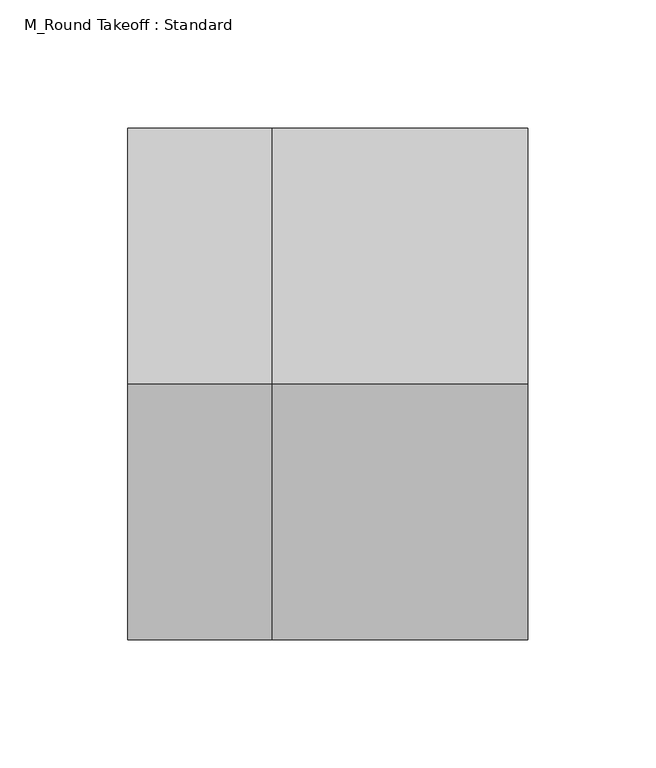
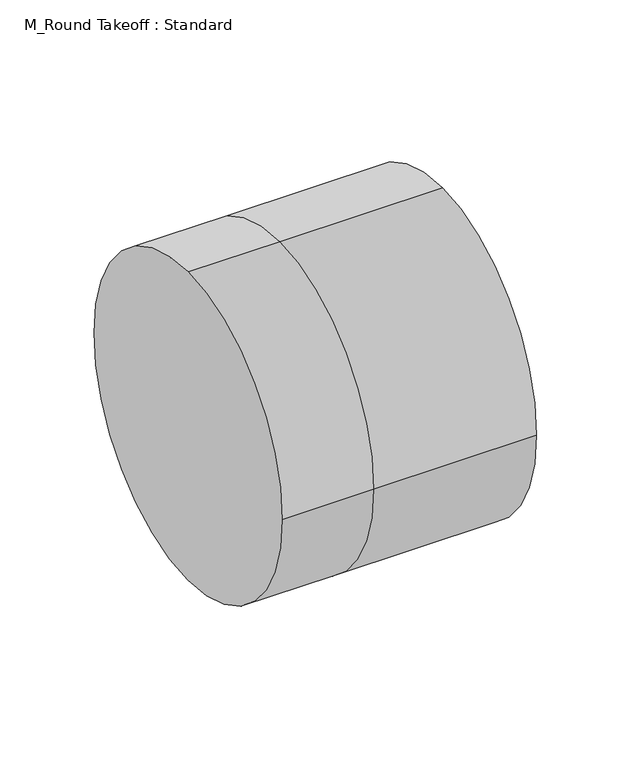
"""IFC4 building model written with IfcOpenShell, lengths in millimetres: duct fitting geometry, M_Round Takeoff : Standard."""

from ifc_helpers import new_model, si_unit, frame, origin, place, context, project, spatial, circle_curve, source, transform, mapped, element, save
from ifc_brep_helpers import plane_surface, cylinder_surface, advanced_brep


def m_round_takeoff_standard_4e9a6aa0(model_context):
    return source(origin(), model_context, "Body", "AdvancedBrep", [
        advanced_brep(
        [(-56.096, 0.0, 100.0), (-56.096, 100.0, 0.0), (-56.096, 0.0, -100.0), (-56.096, -100.0, 0.0), (0.0, 0.0, 100.0), (0.0, 100.0, 0.0), (0.0, 0.0, -100.0), (0.0, -100.0, 0.0), (100.0, 0.0, 100.0), (100.0, -100.0, 0.0), (100.0, 0.0, -100.0), (100.0, 100.0, 0.0)],
        [
            (0, 1, circle_curve(frame((-56.096, 0.0, 0.0), z_axis=(-1.0, 0.0, 0.0), x_axis=(0.0, 1.0, 0.0)), 100.0)),
            (1, 2, circle_curve(frame((-56.096, 0.0, 0.0), z_axis=(-1.0, 0.0, 0.0), x_axis=(0.0, 1.0, 0.0)), 100.0)),
            (2, 3, circle_curve(frame((-56.096, 0.0, 0.0), z_axis=(-1.0, 0.0, 0.0), x_axis=(0.0, 1.0, 0.0)), 100.0)),
            (3, 0, circle_curve(frame((-56.096, 0.0, 0.0), z_axis=(-1.0, 0.0, 0.0), x_axis=(0.0, 1.0, 0.0)), 100.0)),
            (0, 4),
            (4, 5, circle_curve(frame((0.0, 0.0, 0.0), z_axis=(-1.0, 0.0, 0.0), x_axis=(0.0, 1.0, 0.0)), 100.0)),
            (5, 1),
            (5, 6, circle_curve(frame((0.0, 0.0, 0.0), z_axis=(-1.0, 0.0, 0.0), x_axis=(0.0, 1.0, 0.0)), 100.0)),
            (6, 2),
            (6, 7, circle_curve(frame((0.0, 0.0, 0.0), z_axis=(-1.0, 0.0, 0.0), x_axis=(0.0, 1.0, 0.0)), 100.0)),
            (7, 3),
            (7, 4, circle_curve(frame((0.0, 0.0, 0.0), z_axis=(-1.0, 0.0, 0.0), x_axis=(0.0, 1.0, 0.0)), 100.0)),
            (8, 9, circle_curve(frame((100.0, 0.0, 0.0), z_axis=(1.0, 0.0, 0.0), x_axis=(0.0, 1.0, 0.0)), 100.0)),
            (9, 10, circle_curve(frame((100.0, 0.0, 0.0), z_axis=(1.0, 0.0, 0.0), x_axis=(0.0, 1.0, 0.0)), 100.0)),
            (10, 11, circle_curve(frame((100.0, 0.0, 0.0), z_axis=(1.0, 0.0, 0.0), x_axis=(0.0, 1.0, 0.0)), 100.0)),
            (11, 8, circle_curve(frame((100.0, 0.0, 0.0), z_axis=(1.0, 0.0, 0.0), x_axis=(0.0, 1.0, 0.0)), 100.0)),
            (11, 5),
            (4, 8),
            (10, 6),
            (9, 7),
        ],
        [
            plane_surface(frame((-56.096, 0.0, 0.0), z_axis=(-1.0, 0.0, 0.0), x_axis=(0.0, 0.0, 1.0))),
            cylinder_surface(frame((-56.096, 0.0, 0.0), z_axis=(-1.0, 0.0, 0.0), x_axis=(0.0, 1.0, 0.0)), 100.0),
            plane_surface(frame((100.0, 0.0, 0.0), z_axis=(1.0, 0.0, 0.0), x_axis=(0.0, 0.0, 1.0))),
            cylinder_surface(frame((0.0, 0.0, 0.0), z_axis=(-1.0, 0.0, 0.0), x_axis=(0.0, 1.0, 0.0)), 100.0),
        ],
        [
            (0, [[1, 2, 3, 4]]),
            (1, [[-1, 5, 6, 7]]),
            (1, [[-2, -7, 8, 9]]),
            (1, [[-3, -9, 10, 11]]),
            (1, [[-4, -11, 12, -5]]),
            (2, [[13, 14, 15, 16]]),
            (3, [[-16, 17, -6, 18]]),
            (3, [[-15, 19, -8, -17]]),
            (3, [[-14, 20, -10, -19]]),
            (3, [[-13, -18, -12, -20]]),
        ],
    ),
        advanced_brep(
        [(100.0, 0.0, 100.0), (100.0, -100.0, 0.0), (100.0, 0.0, -100.0), (100.0, 100.0, 0.0), (0.0, 100.0, 0.0), (0.0, 0.0, 100.0), (0.0, 0.0, -100.0), (0.0, -100.0, 0.0), (-56.096, 0.0, 100.0), (-56.096, 100.0, 0.0), (-56.096, 0.0, -100.0), (-56.096, -100.0, 0.0)],
        [
            (0, 1, circle_curve(frame((100.0, 0.0, 0.0), z_axis=(1.0, 0.0, 0.0), x_axis=(0.0, 1.0, 0.0)), 100.0)),
            (1, 2, circle_curve(frame((100.0, 0.0, 0.0), z_axis=(1.0, 0.0, 0.0), x_axis=(0.0, 1.0, 0.0)), 100.0)),
            (2, 3, circle_curve(frame((100.0, 0.0, 0.0), z_axis=(1.0, 0.0, 0.0), x_axis=(0.0, 1.0, 0.0)), 100.0)),
            (3, 0, circle_curve(frame((100.0, 0.0, 0.0), z_axis=(1.0, 0.0, 0.0), x_axis=(0.0, 1.0, 0.0)), 100.0)),
            (3, 4),
            (4, 5, circle_curve(frame((0.0, 0.0, 0.0), z_axis=(1.0, 0.0, 0.0), x_axis=(0.0, 1.0, 0.0)), 100.0)),
            (5, 0),
            (2, 6),
            (6, 4, circle_curve(frame((0.0, 0.0, 0.0), z_axis=(1.0, 0.0, 0.0), x_axis=(0.0, 1.0, 0.0)), 100.0)),
            (1, 7),
            (7, 6, circle_curve(frame((0.0, 0.0, 0.0), z_axis=(1.0, 0.0, 0.0), x_axis=(0.0, 1.0, 0.0)), 100.0)),
            (5, 7, circle_curve(frame((0.0, 0.0, 0.0), z_axis=(1.0, 0.0, 0.0), x_axis=(0.0, 1.0, 0.0)), 100.0)),
            (8, 9, circle_curve(frame((-56.096, 0.0, 0.0), z_axis=(-1.0, 0.0, 0.0), x_axis=(0.0, 1.0, 0.0)), 100.0)),
            (9, 10, circle_curve(frame((-56.096, 0.0, 0.0), z_axis=(-1.0, 0.0, 0.0), x_axis=(0.0, 1.0, 0.0)), 100.0)),
            (10, 11, circle_curve(frame((-56.096, 0.0, 0.0), z_axis=(-1.0, 0.0, 0.0), x_axis=(0.0, 1.0, 0.0)), 100.0)),
            (11, 8, circle_curve(frame((-56.096, 0.0, 0.0), z_axis=(-1.0, 0.0, 0.0), x_axis=(0.0, 1.0, 0.0)), 100.0)),
            (8, 5),
            (4, 9),
            (6, 10),
            (7, 11),
        ],
        [
            plane_surface(frame((100.0, 0.0, 0.0), z_axis=(1.0, 0.0, 0.0), x_axis=(0.0, 0.0, 1.0))),
            cylinder_surface(frame((0.0, 0.0, 0.0), z_axis=(-1.0, 0.0, 0.0), x_axis=(0.0, 1.0, 0.0)), 100.0),
            plane_surface(frame((-56.096, 0.0, 0.0), z_axis=(-1.0, 0.0, 0.0), x_axis=(0.0, 0.0, 1.0))),
            cylinder_surface(frame((-56.096, 0.0, 0.0), z_axis=(-1.0, 0.0, 0.0), x_axis=(0.0, 1.0, 0.0)), 100.0),
        ],
        [
            (0, [[1, 2, 3, 4]]),
            (1, [[-4, 5, 6, 7]]),
            (1, [[-3, 8, 9, -5]]),
            (1, [[-2, 10, 11, -8]]),
            (1, [[-1, -7, 12, -10]]),
            (2, [[13, 14, 15, 16]]),
            (3, [[-13, 17, -6, 18]]),
            (3, [[-14, -18, -9, 19]]),
            (3, [[-15, -19, -11, 20]]),
            (3, [[-16, -20, -12, -17]]),
        ],
    ),
        advanced_brep(
        [(-56.096, 0.0, 100.0), (-56.096, 100.0, 0.0), (-56.096, 0.0, -100.0), (-56.096, -100.0, 0.0), (0.0, 0.0, 100.0), (0.0, 100.0, 0.0), (0.0, 0.0, -100.0), (0.0, -100.0, 0.0), (100.0, 0.0, 100.0), (100.0, -100.0, 0.0), (100.0, 0.0, -100.0), (100.0, 100.0, 0.0)],
        [
            (0, 1, circle_curve(frame((-56.096, 0.0, 0.0), z_axis=(-1.0, 0.0, 0.0), x_axis=(0.0, 1.0, 0.0)), 100.0)),
            (1, 2, circle_curve(frame((-56.096, 0.0, 0.0), z_axis=(-1.0, 0.0, 0.0), x_axis=(0.0, 1.0, 0.0)), 100.0)),
            (2, 3, circle_curve(frame((-56.096, 0.0, 0.0), z_axis=(-1.0, 0.0, 0.0), x_axis=(0.0, 1.0, 0.0)), 100.0)),
            (3, 0, circle_curve(frame((-56.096, 0.0, 0.0), z_axis=(-1.0, 0.0, 0.0), x_axis=(0.0, 1.0, 0.0)), 100.0)),
            (0, 4),
            (4, 5, circle_curve(frame((0.0, 0.0, 0.0), z_axis=(-1.0, 0.0, 0.0), x_axis=(0.0, 1.0, 0.0)), 100.0)),
            (5, 1),
            (5, 6, circle_curve(frame((0.0, 0.0, 0.0), z_axis=(-1.0, 0.0, 0.0), x_axis=(0.0, 1.0, 0.0)), 100.0)),
            (6, 2),
            (6, 7, circle_curve(frame((0.0, 0.0, 0.0), z_axis=(-1.0, 0.0, 0.0), x_axis=(0.0, 1.0, 0.0)), 100.0)),
            (7, 3),
            (7, 4, circle_curve(frame((0.0, 0.0, 0.0), z_axis=(-1.0, 0.0, 0.0), x_axis=(0.0, 1.0, 0.0)), 100.0)),
            (8, 9, circle_curve(frame((100.0, 0.0, 0.0), z_axis=(1.0, 0.0, 0.0), x_axis=(0.0, 1.0, 0.0)), 100.0)),
            (9, 10, circle_curve(frame((100.0, 0.0, 0.0), z_axis=(1.0, 0.0, 0.0), x_axis=(0.0, 1.0, 0.0)), 100.0)),
            (10, 11, circle_curve(frame((100.0, 0.0, 0.0), z_axis=(1.0, 0.0, 0.0), x_axis=(0.0, 1.0, 0.0)), 100.0)),
            (11, 8, circle_curve(frame((100.0, 0.0, 0.0), z_axis=(1.0, 0.0, 0.0), x_axis=(0.0, 1.0, 0.0)), 100.0)),
            (11, 5),
            (4, 8),
            (10, 6),
            (9, 7),
        ],
        [
            plane_surface(frame((-56.096, 0.0, 0.0), z_axis=(-1.0, 0.0, 0.0), x_axis=(0.0, 0.0, 1.0))),
            cylinder_surface(frame((-56.096, 0.0, 0.0), z_axis=(-1.0, 0.0, 0.0), x_axis=(0.0, 1.0, 0.0)), 100.0),
            plane_surface(frame((100.0, 0.0, 0.0), z_axis=(1.0, 0.0, 0.0), x_axis=(0.0, 0.0, 1.0))),
            cylinder_surface(frame((0.0, 0.0, 0.0), z_axis=(-1.0, 0.0, 0.0), x_axis=(0.0, 1.0, 0.0)), 100.0),
        ],
        [
            (0, [[1, 2, 3, 4]]),
            (1, [[-1, 5, 6, 7]]),
            (1, [[-2, -7, 8, 9]]),
            (1, [[-3, -9, 10, 11]]),
            (1, [[-4, -11, 12, -5]]),
            (2, [[13, 14, 15, 16]]),
            (3, [[-16, 17, -6, 18]]),
            (3, [[-15, 19, -8, -17]]),
            (3, [[-14, 20, -10, -19]]),
            (3, [[-13, -18, -12, -20]]),
        ],
    ),
    ])


if __name__ == "__main__":
    model = new_model("IFC4")
    model_context = context("Model", 3, world=origin())
    ifc_project = project(units=[si_unit("LENGTHUNIT", "METRE", prefix="MILLI")], contexts=[model_context])
    site = spatial("IfcSite", under=ifc_project)
    building = spatial("IfcBuilding", under=site)
    placement = place(None, origin())
    m_round_takeoff_standard_shape = m_round_takeoff_standard_4e9a6aa0(model_context)
    element("IfcDuctFitting", 1, ObjectType="M_Round Takeoff : Standard", at=placement, inside=building, context=model_context, shape_type="MappedRepresentation", body=[
        mapped(m_round_takeoff_standard_shape, transform((0.0, 0.0, 0.0), x_axis=(1.0, 0.0, 0.0), y_axis=(0.0, 1.0, 0.0), z_axis=(0.0, 0.0, 1.0))),
    ])
    save(model, "model.ifc")
